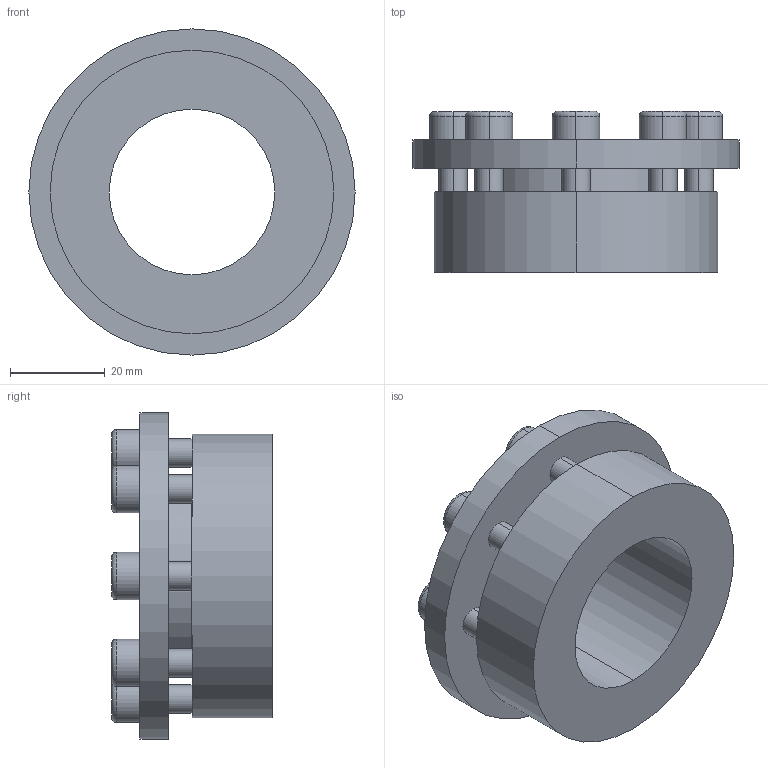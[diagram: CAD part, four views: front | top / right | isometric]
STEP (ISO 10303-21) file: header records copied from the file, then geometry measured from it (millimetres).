
FILE_DESCRIPTION (( 'STEP AP203' ), '1' );
FILE_NAME ('PL-H6 35-60.STEP', '2021-10-23T01:36:09', ( '' ), ( '' ), 'SwSTEP 2.0', 'SolidWorks 2018', '' );
FILE_SCHEMA (( 'CONFIG_CONTROL_DESIGN' ));
Length unit declared in the file: millimetre
Products named in the file (1): PL-H6 35-60
Bounding box: 69 x 34 x 69 mm (x, y, z)
Volume: 54175.8 mm3; surface area: 19021.9 mm2
Topology: 1 solids, 1 shells, 124 faces, 296 edges, 192 vertices
Faces by surface type: plane 68, cylinder 40, torus 16
Entity records: 3717 total; most frequent: DIRECTION 658, CARTESIAN_POINT 613, ORIENTED_EDGE 592, EDGE_CURVE 296, AXIS2_PLACEMENT_3D 237, VERTEX_POINT 192, LINE 184, VECTOR 184
